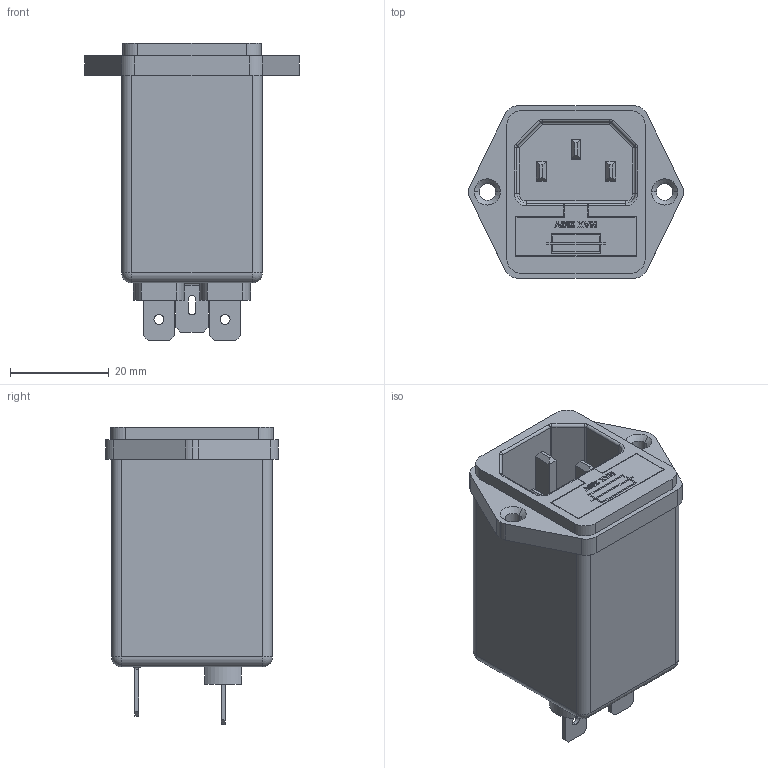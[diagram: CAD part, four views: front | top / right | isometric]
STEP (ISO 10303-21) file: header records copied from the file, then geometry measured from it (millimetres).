
FILE_DESCRIPTION (( 'STEP AP214' ), '1' );
FILE_NAME ('RIR EMC filter.STEP', '2015-02-02T10:03:25', ( '' ), ( '' ), 'SwSTEP 2.0', 'SolidWorks 2014', '' );
FILE_SCHEMA (( 'AUTOMOTIVE_DESIGN' ));
Length unit declared in the file: millimetre
Products named in the file (1): RIR EMC filter
Bounding box: 43.51 x 35 x 60.2 mm (x, y, z)
Volume: 40560.2 mm3; surface area: 10946.6 mm2
Topology: 1 solids, 1 shells, 307 faces, 783 edges, 498 vertices
Faces by surface type: plane 190, cylinder 66, bspline 31, sphere 8, torus 8, cone 4
Entity records: 13929 total; most frequent: CARTESIAN_POINT 3322, ORIENTED_EDGE 1554, DIRECTION 1401, EDGE_CURVE 777, LINE 575, VECTOR 575, VERTEX_POINT 498, AXIS2_PLACEMENT_3D 413
